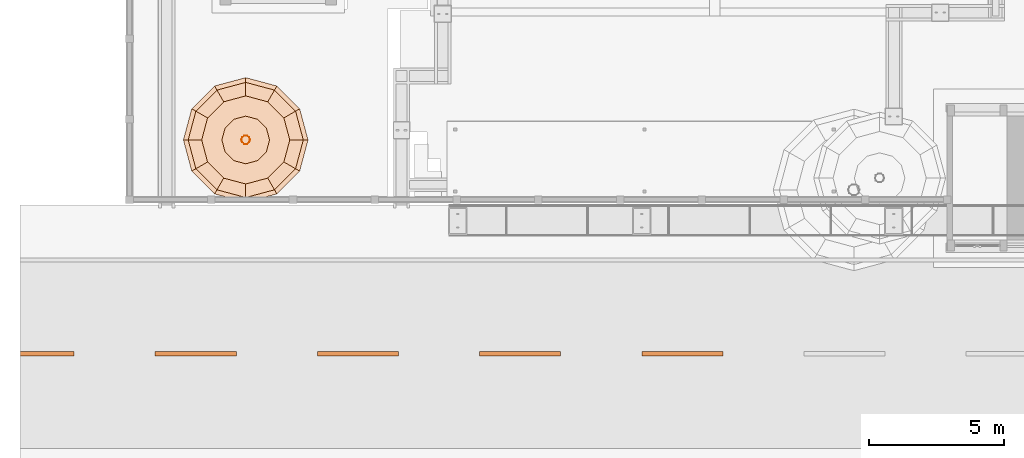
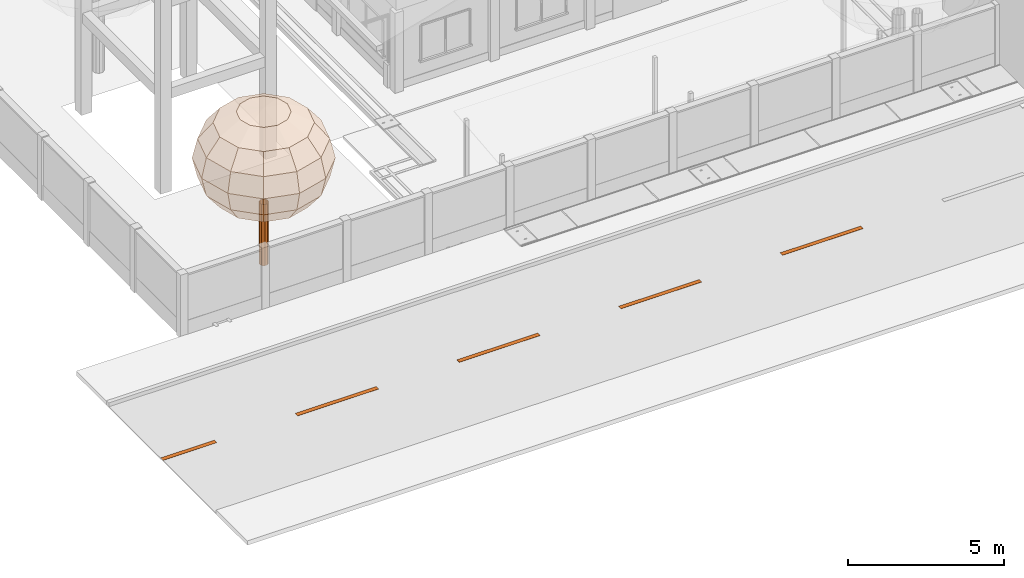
# One storey, part 153 of 177: 5 proxies, 2 geographic elements.
"""IFC4 building model written with IfcOpenShell, lengths in metres."""

from ifc_helpers import new_model, si_unit, origin, origin_with_axes, place, context, subcontext, project, spatial, triangles, element, save


model = new_model("IFC4")

# Units and contexts
model_context = context("Model", 3, precision=1e-05, world=origin_with_axes())
body_context = subcontext(model_context, "Body", "Model", "MODEL_VIEW")
ifc_project = project(units=[si_unit("LENGTHUNIT", "METRE"), si_unit("AREAUNIT", "SQUARE_METRE"), si_unit("VOLUMEUNIT", "CUBIC_METRE"), si_unit("PLANEANGLEUNIT", "RADIAN")], contexts=[model_context])

# Site, building, storey
site_placement = place(None, origin_with_axes())
site = spatial("IfcSite", under=ifc_project, at=site_placement, Name="Predio Los Mangos - Morales, San Martín", CompositionType="ELEMENT")
building_placement = place(site_placement, origin())
building = spatial("IfcBuilding", under=site, at=building_placement, Name="Hogar de Refugio Temporal", CompositionType="ELEMENT")
storey_placement = place(building_placement, origin())
storey = spatial("IfcBuildingStorey", under=building, at=storey_placement, Name="NIVEL 1 (NPT +0.00)", CompositionType="ELEMENT", Elevation=0.0)

# Proxies
proxy_1_placement = place(storey_placement, origin())
element("IfcBuildingElementProxy", 1, at=proxy_1_placement, inside=storey, Name="linea_carril", ObjectType="Losa deportiva y vía", PredefinedType="NOTDEFINED", context=body_context, shape_type="Tessellation", body=[
    triangles([(-3.0, 12.22, 0.02), (-1.0, 12.22, 0.02), (-1.0, 12.38, 0.02), (-3.0, 12.38, 0.02), (-3.0, 12.22, 0.025), (-1.0, 12.22, 0.025), (-1.0, 12.38, 0.025), (-3.0, 12.38, 0.025)], [[1, 4, 3], [1, 3, 2], [5, 6, 7], [5, 7, 8], [1, 2, 6], [1, 6, 5], [2, 3, 7], [2, 7, 6], [3, 4, 8], [3, 8, 7], [4, 1, 5], [4, 5, 8]]),
])
proxy_2_placement = place(storey_placement, origin())
element("IfcBuildingElementProxy", 2, at=proxy_2_placement, inside=storey, Name="linea_carril", ObjectType="Losa deportiva y vía", PredefinedType="NOTDEFINED", context=body_context, shape_type="Tessellation", body=[
    triangles([(2.0, 12.22, 0.02), (5.0, 12.22, 0.02), (5.0, 12.38, 0.02), (2.0, 12.38, 0.02), (2.0, 12.22, 0.025), (5.0, 12.22, 0.025), (5.0, 12.38, 0.025), (2.0, 12.38, 0.025)], [[1, 4, 3], [1, 3, 2], [5, 6, 7], [5, 7, 8], [1, 2, 6], [1, 6, 5], [2, 3, 7], [2, 7, 6], [3, 4, 8], [3, 8, 7], [4, 1, 5], [4, 5, 8]]),
])
proxy_3_placement = place(storey_placement, origin())
element("IfcBuildingElementProxy", 3, at=proxy_3_placement, inside=storey, Name="linea_carril", ObjectType="Losa deportiva y vía", PredefinedType="NOTDEFINED", context=body_context, shape_type="Tessellation", body=[
    triangles([(8.0, 12.22, 0.02), (11.0, 12.22, 0.02), (11.0, 12.38, 0.02), (8.0, 12.38, 0.02), (8.0, 12.22, 0.025), (11.0, 12.22, 0.025), (11.0, 12.38, 0.025), (8.0, 12.38, 0.025)], [[1, 4, 3], [1, 3, 2], [5, 6, 7], [5, 7, 8], [1, 2, 6], [1, 6, 5], [2, 3, 7], [2, 7, 6], [3, 4, 8], [3, 8, 7], [4, 1, 5], [4, 5, 8]]),
])
proxy_4_placement = place(storey_placement, origin())
element("IfcBuildingElementProxy", 4, at=proxy_4_placement, inside=storey, Name="linea_carril", ObjectType="Losa deportiva y vía", PredefinedType="NOTDEFINED", context=body_context, shape_type="Tessellation", body=[
    triangles([(14.0, 12.22, 0.02), (17.0, 12.22, 0.02), (17.0, 12.38, 0.02), (14.0, 12.38, 0.02), (14.0, 12.22, 0.025), (17.0, 12.22, 0.025), (17.0, 12.38, 0.025), (14.0, 12.38, 0.025)], [[1, 4, 3], [1, 3, 2], [5, 6, 7], [5, 7, 8], [1, 2, 6], [1, 6, 5], [2, 3, 7], [2, 7, 6], [3, 4, 8], [3, 8, 7], [4, 1, 5], [4, 5, 8]]),
])
proxy_5_placement = place(storey_placement, origin())
element("IfcBuildingElementProxy", 5, at=proxy_5_placement, inside=storey, Name="linea_carril", ObjectType="Losa deportiva y vía", PredefinedType="NOTDEFINED", context=body_context, shape_type="Tessellation", body=[
    triangles([(20.0, 12.22, 0.02), (23.0, 12.22, 0.02), (23.0, 12.38, 0.02), (20.0, 12.38, 0.02), (20.0, 12.22, 0.025), (23.0, 12.22, 0.025), (23.0, 12.38, 0.025), (20.0, 12.38, 0.025)], [[1, 4, 3], [1, 3, 2], [5, 6, 7], [5, 7, 8], [1, 2, 6], [1, 6, 5], [2, 3, 7], [2, 7, 6], [3, 4, 8], [3, 8, 7], [4, 1, 5], [4, 5, 8]]),
])

# Geographic elements
geographic_element_1_placement = place(storey_placement, origin())
element("IfcGeographicElement", 6, at=geographic_element_1_placement, inside=storey, Name="arbol_tronco", ObjectType="Árbol", PredefinedType="NOTDEFINED", context=body_context, shape_type="Tessellation", body=[
    triangles([(5.5103, 20.21, 0.0), (5.4797, 20.3042, 0.0), (5.3995, 20.3625, 0.0), (5.3005, 20.3625, 0.0), (5.2203, 20.3042, 0.0), (5.1897, 20.21, 0.0), (5.2203, 20.1158, 0.0), (5.3005, 20.0575, 0.0), (5.3995, 20.0575, 0.0), (5.4797, 20.1158, 0.0), (5.5103, 20.21, 2.4048), (5.4797, 20.3042, 2.4048), (5.3995, 20.3625, 2.4048), (5.3005, 20.3625, 2.4048), (5.2203, 20.3042, 2.4048), (5.1897, 20.21, 2.4048), (5.2203, 20.1158, 2.4048), (5.3005, 20.0575, 2.4048), (5.3995, 20.0575, 2.4048), (5.4797, 20.1158, 2.4048)], [[1, 2, 12], [2, 3, 13], [3, 4, 14], [4, 5, 15], [5, 6, 16], [6, 7, 17], [7, 8, 18], [8, 9, 19], [9, 10, 20], [10, 1, 11], [1, 12, 11], [2, 13, 12], [3, 14, 13], [4, 15, 14], [5, 16, 15], [6, 17, 16], [7, 18, 17], [8, 19, 18], [9, 20, 19], [10, 11, 20]]),
])
geographic_element_2_placement = place(storey_placement, origin())
element("IfcGeographicElement", 7, at=geographic_element_2_placement, inside=storey, Name="arbol_copa", ObjectType="Árbol", PredefinedType="NOTDEFINED", context=body_context, shape_type="Tessellation", body=[
    triangles([(5.35, 20.21, 6.0922), (5.35, 20.21, 6.0922), (5.35, 20.21, 6.0922), (5.35, 20.21, 6.0922), (5.35, 20.21, 6.0922), (5.35, 20.21, 6.0922), (5.35, 20.21, 6.0922), (5.35, 20.21, 6.0922), (5.35, 20.21, 6.0922), (5.35, 20.21, 6.0922), (5.35, 20.21, 6.0922), (5.35, 20.21, 6.0922), (6.2319, 20.21, 5.9431), (6.1138, 20.651, 5.9431), (5.791, 20.9738, 5.9431), (5.35, 21.0919, 5.9431), (4.909, 20.9738, 5.9431), (4.5862, 20.651, 5.9431), (4.4681, 20.21, 5.9431), (4.5862, 19.769, 5.9431), (4.909, 19.4462, 5.9431), (5.35, 19.3281, 5.9431), (5.791, 19.4462, 5.9431), (6.1138, 19.769, 5.9431), (6.9796, 20.21, 5.5185), (6.7613, 21.0248, 5.5185), (6.1648, 21.6213, 5.5185), (5.35, 21.8396, 5.5185), (4.5352, 21.6213, 5.5185), (3.9387, 21.0248, 5.5185), (3.7204, 20.21, 5.5185), (3.9387, 19.3952, 5.5185), (4.5352, 18.7987, 5.5185), (5.35, 18.5804, 5.5185), (6.1648, 18.7987, 5.5185), (6.7613, 19.3952, 5.5185), (7.4792, 20.21, 4.8829), (7.1939, 21.2746, 4.8829), (6.4146, 22.0539, 4.8829), (5.35, 22.3392, 4.8829), (4.2854, 22.0539, 4.8829), (3.5061, 21.2746, 4.8829), (3.2208, 20.21, 4.8829), (3.5061, 19.1454, 4.8829), (4.2854, 18.3661, 4.8829), (5.35, 18.0808, 4.8829), (6.4146, 18.3661, 4.8829), (7.1939, 19.1454, 4.8829), (7.6546, 20.21, 4.1333), (7.3459, 21.3623, 4.1333), (6.5023, 22.2059, 4.1333), (5.35, 22.5146, 4.1333), (4.1977, 22.2059, 4.1333), (3.3541, 21.3623, 4.1333), (3.0454, 20.21, 4.1333), (3.3541, 19.0577, 4.1333), (4.1977, 18.2141, 4.1333), (5.35, 17.9054, 4.1333), (6.5023, 18.2141, 4.1333), (7.3459, 19.0577, 4.1333), (7.4792, 20.21, 3.3836), (7.1939, 21.2746, 3.3836), (6.4146, 22.0539, 3.3836), (5.35, 22.3392, 3.3836), (4.2854, 22.0539, 3.3836), (3.5061, 21.2746, 3.3836), (3.2208, 20.21, 3.3836), (3.5061, 19.1454, 3.3836), (4.2854, 18.3661, 3.3836), (5.35, 18.0808, 3.3836), (6.4146, 18.3661, 3.3836), (7.1939, 19.1454, 3.3836), (6.9796, 20.21, 2.7481), (6.7613, 21.0248, 2.7481), (6.1648, 21.6213, 2.7481), (5.35, 21.8396, 2.7481), (4.5352, 21.6213, 2.7481), (3.9387, 21.0248, 2.7481), (3.7204, 20.21, 2.7481), (3.9387, 19.3952, 2.7481), (4.5352, 18.7987, 2.7481), (5.35, 18.5804, 2.7481), (6.1648, 18.7987, 2.7481), (6.7613, 19.3952, 2.7481), (6.2319, 20.21, 2.3235), (6.1138, 20.651, 2.3235), (5.791, 20.9738, 2.3235), (5.35, 21.0919, 2.3235), (4.909, 20.9738, 2.3235), (4.5862, 20.651, 2.3235), (4.4681, 20.21, 2.3235), (4.5862, 19.769, 2.3235), (4.909, 19.4462, 2.3235), (5.35, 19.3281, 2.3235), (5.791, 19.4462, 2.3235), (6.1138, 19.769, 2.3235), (5.35, 20.21, 2.1744), (5.35, 20.21, 2.1744), (5.35, 20.21, 2.1744), (5.35, 20.21, 2.1744), (5.35, 20.21, 2.1744), (5.35, 20.21, 2.1744), (5.35, 20.21, 2.1744), (5.35, 20.21, 2.1744), (5.35, 20.21, 2.1744), (5.35, 20.21, 2.1744), (5.35, 20.21, 2.1744), (5.35, 20.21, 2.1744)], [[1, 2, 14], [1, 14, 13], [2, 3, 15], [2, 15, 14], [3, 4, 16], [3, 16, 15], [4, 5, 17], [4, 17, 16], [5, 6, 18], [5, 18, 17], [6, 7, 19], [6, 19, 18], [7, 8, 20], [7, 20, 19], [8, 9, 21], [8, 21, 20], [9, 10, 22], [9, 22, 21], [10, 11, 23], [10, 23, 22], [11, 12, 24], [11, 24, 23], [12, 1, 13], [12, 13, 24], [13, 14, 26], [13, 26, 25], [14, 15, 27], [14, 27, 26], [15, 16, 28], [15, 28, 27], [16, 17, 29], [16, 29, 28], [17, 18, 30], [17, 30, 29], [18, 19, 31], [18, 31, 30], [19, 20, 32], [19, 32, 31], [20, 21, 33], [20, 33, 32], [21, 22, 34], [21, 34, 33], [22, 23, 35], [22, 35, 34], [23, 24, 36], [23, 36, 35], [24, 13, 25], [24, 25, 36], [25, 26, 38], [25, 38, 37], [26, 27, 39], [26, 39, 38], [27, 28, 40], [27, 40, 39], [28, 29, 41], [28, 41, 40], [29, 30, 42], [29, 42, 41], [30, 31, 43], [30, 43, 42], [31, 32, 44], [31, 44, 43], [32, 33, 45], [32, 45, 44], [33, 34, 46], [33, 46, 45], [34, 35, 47], [34, 47, 46], [35, 36, 48], [35, 48, 47], [36, 25, 37], [36, 37, 48], [37, 38, 50], [37, 50, 49], [38, 39, 51], [38, 51, 50], [39, 40, 52], [39, 52, 51], [40, 41, 53], [40, 53, 52], [41, 42, 54], [41, 54, 53], [42, 43, 55], [42, 55, 54], [43, 44, 56], [43, 56, 55], [44, 45, 57], [44, 57, 56], [45, 46, 58], [45, 58, 57], [46, 47, 59], [46, 59, 58], [47, 48, 60], [47, 60, 59], [48, 37, 49], [48, 49, 60], [49, 50, 62], [49, 62, 61], [50, 51, 63], [50, 63, 62], [51, 52, 64], [51, 64, 63], [52, 53, 65], [52, 65, 64], [53, 54, 66], [53, 66, 65], [54, 55, 67], [54, 67, 66], [55, 56, 68], [55, 68, 67], [56, 57, 69], [56, 69, 68], [57, 58, 70], [57, 70, 69], [58, 59, 71], [58, 71, 70], [59, 60, 72], [59, 72, 71], [60, 49, 61], [60, 61, 72], [61, 62, 74], [61, 74, 73], [62, 63, 75], [62, 75, 74], [63, 64, 76], [63, 76, 75], [64, 65, 77], [64, 77, 76], [65, 66, 78], [65, 78, 77], [66, 67, 79], [66, 79, 78], [67, 68, 80], [67, 80, 79], [68, 69, 81], [68, 81, 80], [69, 70, 82], [69, 82, 81], [70, 71, 83], [70, 83, 82], [71, 72, 84], [71, 84, 83], [72, 61, 73], [72, 73, 84], [73, 74, 86], [73, 86, 85], [74, 75, 87], [74, 87, 86], [75, 76, 88], [75, 88, 87], [76, 77, 89], [76, 89, 88], [77, 78, 90], [77, 90, 89], [78, 79, 91], [78, 91, 90], [79, 80, 92], [79, 92, 91], [80, 81, 93], [80, 93, 92], [81, 82, 94], [81, 94, 93], [82, 83, 95], [82, 95, 94], [83, 84, 96], [83, 96, 95], [84, 73, 85], [84, 85, 96], [85, 86, 98], [85, 98, 97], [86, 87, 99], [86, 99, 98], [87, 88, 100], [87, 100, 99], [88, 89, 101], [88, 101, 100], [89, 90, 102], [89, 102, 101], [90, 91, 103], [90, 103, 102], [91, 92, 104], [91, 104, 103], [92, 93, 105], [92, 105, 104], [93, 94, 106], [93, 106, 105], [94, 95, 107], [94, 107, 106], [95, 96, 108], [95, 108, 107], [96, 85, 97], [96, 97, 108]]),
])

save(model, "model.ifc")
